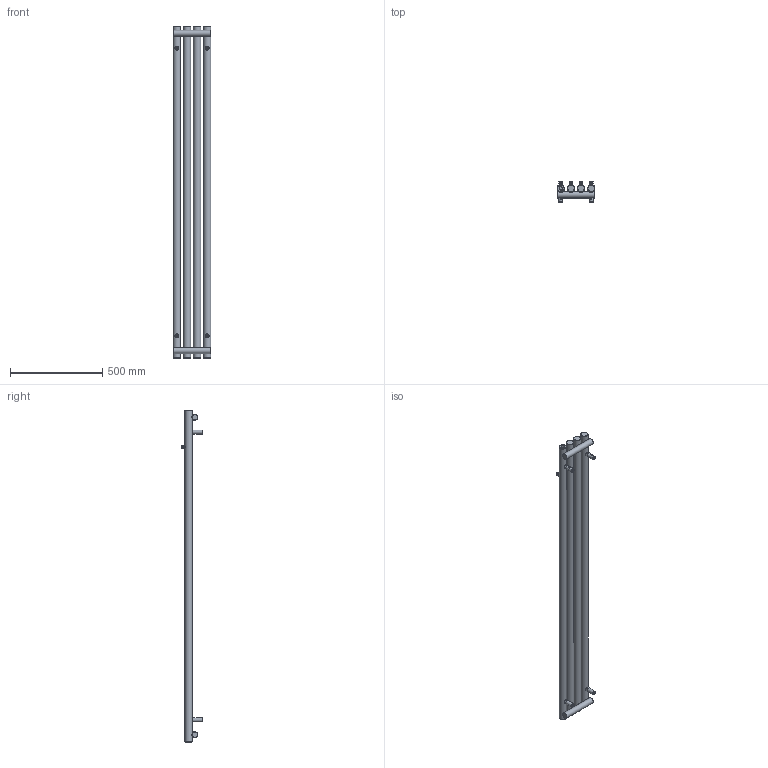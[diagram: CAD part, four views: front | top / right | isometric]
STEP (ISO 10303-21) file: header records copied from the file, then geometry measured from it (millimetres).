
FILE_DESCRIPTION(/* description */ (''),/* implementation_level */ '2;1');
FILE_NAME(/* name */ 'Z:\R\G\P\RGP116 - Grzejniki Geyser\Work\Inventor\Circolo (Rolo V, Rolo H)\ROLO-HANGER\Marketing\Bryły\Zaokrąglone\WGROW180020-SX-CK-(Z).stp',/* time_stamp */ '2024-03-27T09:37:17+01:00',/* author */ ('NowAd'),/* organization */ (''),/* preprocessor_version */ 'ST-DEVELOPER v17.2',/* originating_system */ 'Autodesk Inventor 2019',/* authorisation */ '');
FILE_SCHEMA (('AUTOMOTIVE_DESIGN { 1 0 10303 214 3 1 1 }'));
Length unit declared in the file: millimetre
Products named in the file (3): WGROR180020-SX-CK-(Z); PGROR180020-SX-CK-(K); CK-V-fi40 marketing
Assembly tree (5 placements, depth 2):
  WGROR180020-SX-CK-(Z)
    PGROR180020-SX-CK-(K)
    CK-V-fi40 marketing  x4
Bounding box: 205 x 116.5 x 1800 mm (x, y, z)
Volume: 9436279.8 mm3; surface area: 992512.9 mm2
Topology: 5 solids, 5 shells, 360 faces, 917 edges, 620 vertices
Faces by surface type: plane 143, cylinder 85, torus 60, cone 60, bspline 12
Full cylindrical faces by diameter (mm): 4.134 x4, 4.48 x4, 6.4 x4, 10 x4, 12 x4, 14 x4, 15.834 x4, 16 x4, 18.631 x3, 20 x8, 22 x4, 32 x2, 40 x4
Entity records: 8224 total; most frequent: CARTESIAN_POINT 3771, DIRECTION 970, ORIENTED_EDGE 880, EDGE_CURVE 440, AXIS2_PLACEMENT_3D 440, VERTEX_POINT 306, CIRCLE 259, EDGE_LOOP 224
